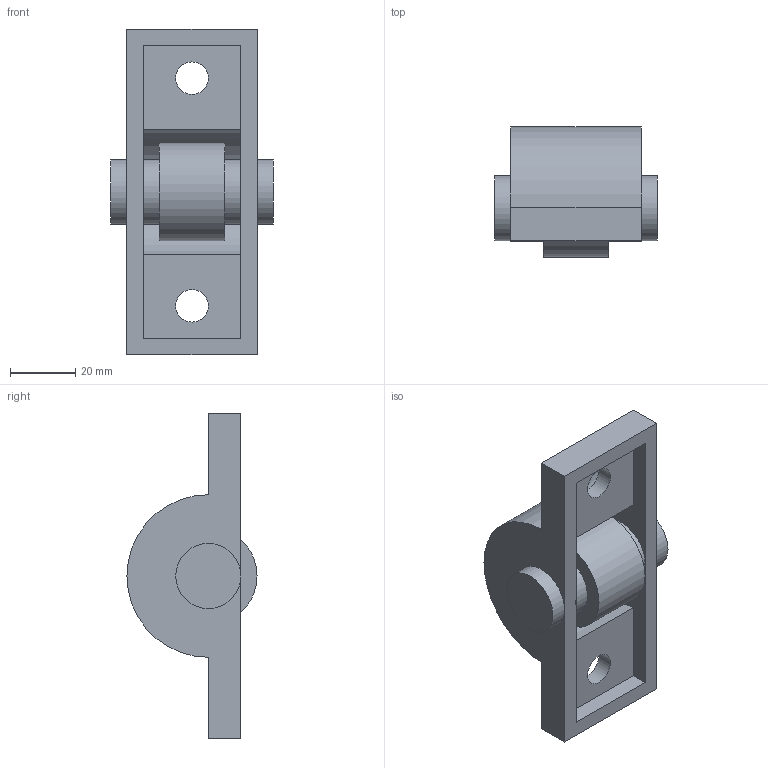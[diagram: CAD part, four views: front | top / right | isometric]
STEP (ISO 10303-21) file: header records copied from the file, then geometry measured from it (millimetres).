
FILE_DESCRIPTION(/* description */ (''),/* implementation_level */ '2;1');
FILE_NAME(/* name */ 'E:\OneDrive\School\Courses\Graphic Communication\Higher\Projects\Technical Graphics\Higher GC Technical Graphics\AS STEP\Section_7.stp',/* time_stamp */ '2020-12-07T16:36:40+00:00',/* author */ ('hunte'),/* organization */ (''),/* preprocessor_version */ 'ST-DEVELOPER v18.1',/* originating_system */ 'Autodesk Inventor 2020',/* authorisation */ '');
FILE_SCHEMA (('AUTOMOTIVE_DESIGN { 1 0 10303 214 3 1 1 }'));
Length unit declared in the file: millimetre
Products named in the file (4): ASSY_Section_7; PRT_Housing_v1; PRT_Wheel_v1; PRT_Axle_v1
Assembly tree (3 placements, depth 2):
  ASSY_Section_7
    PRT_Housing_v1
    PRT_Wheel_v1
    PRT_Axle_v1
Bounding box: 50 x 40 x 100 mm (x, y, z)
Volume: 60618.4 mm3; surface area: 25480.7 mm2
Topology: 3 solids, 3 shells, 34 faces, 85 edges, 62 vertices
Faces by surface type: plane 21, cylinder 13
Full cylindrical faces by diameter (mm): 10 x6, 20 x4, 30 x1
Entity records: 1222 total; most frequent: DIRECTION 209, CARTESIAN_POINT 188, ORIENTED_EDGE 170, EDGE_CURVE 85, AXIS2_PLACEMENT_3D 83, VERTEX_POINT 62, EDGE_LOOP 49, LINE 43
